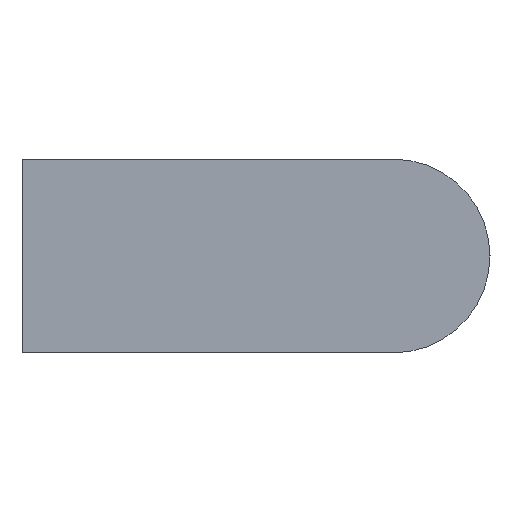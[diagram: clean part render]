
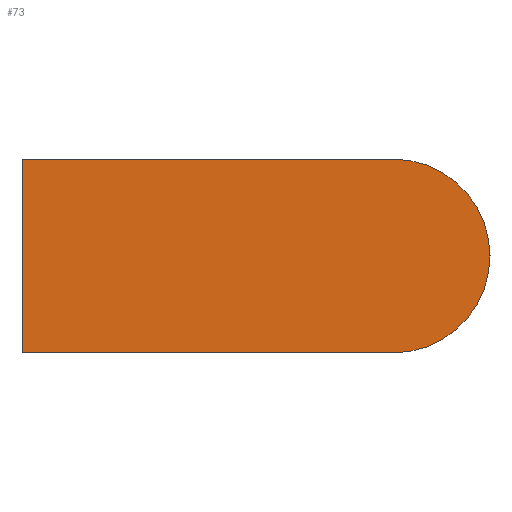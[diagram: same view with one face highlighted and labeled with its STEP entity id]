
A CAD part, left-side view. The second image highlights one B-rep face of the part: STEP entity #73.
In plain terms, the highlighted planar face has unit normal (-1, 0, 0).
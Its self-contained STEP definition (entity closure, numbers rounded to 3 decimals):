
#73 = ADVANCED_FACE( '', ( #147 ), #148, .F. );
#147 = FACE_OUTER_BOUND( '', #212, .T. );
#148 = PLANE( '', #213 );
#212 = EDGE_LOOP( '', ( #336, #337, #338, #339 ) );
#213 = AXIS2_PLACEMENT_3D( '', #340, #341, #342 );
#336 = ORIENTED_EDGE( '', *, *, #349, .F. );
#337 = ORIENTED_EDGE( '', *, *, #370, .F. );
#338 = ORIENTED_EDGE( '', *, *, #378, .F. );
#339 = ORIENTED_EDGE( '', *, *, #382, .F. );
#340 = CARTESIAN_POINT( '', ( -15., -28.04, 0. ) );
#341 = DIRECTION( '', ( 1., 0., 0. ) );
#342 = DIRECTION( '', ( 0., 0., -1. ) );
#349 = EDGE_CURVE( '', #400, #401, #402, .T. );
#370 = EDGE_CURVE( '', #433, #400, #434, .T. );
#378 = EDGE_CURVE( '', #444, #433, #445, .T. );
#382 = EDGE_CURVE( '', #401, #444, #450, .T. );
#400 = VERTEX_POINT( '', #472 );
#401 = VERTEX_POINT( '', #473 );
#402 = LINE( '', #474, #475 );
#433 = VERTEX_POINT( '', #516 );
#434 = LINE( '', #517, #518 );
#444 = VERTEX_POINT( '', #530 );
#445 = LINE( '', #531, #532 );
#450 = CIRCLE( '', #539, 7.32 );
#472 = CARTESIAN_POINT( '', ( -15., 0., 7.32 ) );
#473 = CARTESIAN_POINT( '', ( -15., -28.04, 7.32 ) );
#474 = CARTESIAN_POINT( '', ( -15., 0., 7.32 ) );
#475 = VECTOR( '', #554, 1000. );
#516 = CARTESIAN_POINT( '', ( -15., 0., -7.32 ) );
#517 = CARTESIAN_POINT( '', ( -15., 0., -7.32 ) );
#518 = VECTOR( '', #580, 1000. );
#530 = CARTESIAN_POINT( '', ( -15., -28.04, -7.32 ) );
#531 = CARTESIAN_POINT( '', ( -15., -28.04, -7.32 ) );
#532 = VECTOR( '', #586, 1000. );
#539 = AXIS2_PLACEMENT_3D( '', #589, #590, #591 );
#554 = DIRECTION( '', ( 0., -1., 0. ) );
#580 = DIRECTION( '', ( 0., 0., 1. ) );
#586 = DIRECTION( '', ( 0., 1., 0. ) );
#589 = CARTESIAN_POINT( '', ( -15., -28.04, 0. ) );
#590 = DIRECTION( '', ( 1., 0., 0. ) );
#591 = DIRECTION( '', ( 0., 0., -1. ) );
